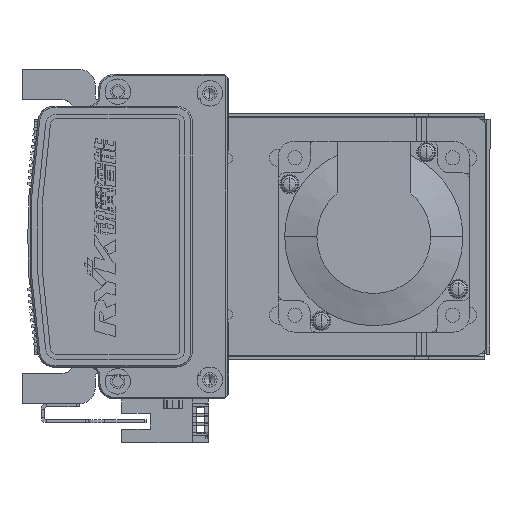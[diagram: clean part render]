
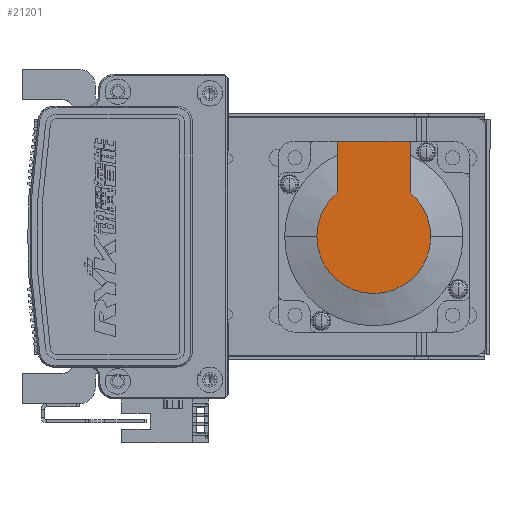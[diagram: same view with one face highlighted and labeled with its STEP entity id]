
A CAD part, left-side view. The second image highlights one B-rep face of the part: STEP entity #21201.
In plain terms, the highlighted planar face has unit normal (-1, 0, 0).
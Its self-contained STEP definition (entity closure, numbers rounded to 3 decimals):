
#6416 = ORIENTED_EDGE ( 'NONE', *, *, #21231, .F. ) ;
#6431 = ORIENTED_EDGE ( 'NONE', *, *, #21147, .T. ) ;
#6537 = ORIENTED_EDGE ( 'NONE', *, *, #21250, .F. ) ;
#6707 = ORIENTED_EDGE ( 'NONE', *, *, #20243, .T. ) ;
#6735 = ORIENTED_EDGE ( 'NONE', *, *, #20965, .T. ) ;
#6815 = ORIENTED_EDGE ( 'NONE', *, *, #20210, .T. ) ;
#15028 = VERTEX_POINT ( 'NONE', #52151 ) ;
#15046 = VERTEX_POINT ( 'NONE', #52183 ) ;
#15061 = VERTEX_POINT ( 'NONE', #52209 ) ;
#15369 = VERTEX_POINT ( 'NONE', #25208 ) ;
#15450 = VERTEX_POINT ( 'NONE', #25354 ) ;
#15661 = VERTEX_POINT ( 'NONE', #26994 ) ;
#20210 = EDGE_CURVE ( 'NONE', #15028, #15046, #63525, .T. ) ;
#20243 = EDGE_CURVE ( 'NONE', #15061, #15028, #63639, .T. ) ;
#20965 = EDGE_CURVE ( 'NONE', #15369, #15061, #64483, .T. ) ;
#21147 = EDGE_CURVE ( 'NONE', #15450, #15369, #37247, .T. ) ;
#21201 = ADVANCED_FACE ( 'NONE', ( #37310 ), #34901, .T. ) ;
#21231 = EDGE_CURVE ( 'NONE', #15450, #15661, #37333, .T. ) ;
#21250 = EDGE_CURVE ( 'NONE', #15661, #15046, #37340, .T. ) ;
#25208 = CARTESIAN_POINT ( 'NONE',  ( -99., 13.735, -11.45 ) ) ;
#25354 = CARTESIAN_POINT ( 'NONE',  ( -99., 30., -11.45 ) ) ;
#26994 = CARTESIAN_POINT ( 'NONE',  ( -99., 30., 11.45 ) ) ;
#33710 = EDGE_LOOP ( 'NONE', ( #6431, #6735, #6707, #6815, #6537, #6416 ) ) ;
#33945 = CARTESIAN_POINT ( 'NONE',  ( -99., 0., 0. ) ) ;
#33946 = DIRECTION ( 'NONE',  ( -1., 0., 0. ) ) ;
#33948 = DIRECTION ( 'NONE',  ( 0., 0., -1. ) ) ;
#34657 = CARTESIAN_POINT ( 'NONE',  ( -99., -8.941, -11.45 ) ) ;
#34691 = DIRECTION ( 'NONE',  ( 0., -1., 0. ) ) ;
#34901 = PLANE ( 'NONE',  #49519 ) ;
#34944 = DIRECTION ( 'NONE',  ( 0., 0., 1. ) ) ;
#34958 = CARTESIAN_POINT ( 'NONE',  ( -99., -8.941, 0. ) ) ;
#34992 = DIRECTION ( 'NONE',  ( -1., 0., 0. ) ) ;
#35116 = CARTESIAN_POINT ( 'NONE',  ( -99., 30., 25. ) ) ;
#35121 = DIRECTION ( 'NONE',  ( 0., -1., 0. ) ) ;
#35155 = DIRECTION ( 'NONE',  ( 0., 0., 1. ) ) ;
#35161 = CARTESIAN_POINT ( 'NONE',  ( -99., 0., 11.45 ) ) ;
#37209 = VECTOR ( 'NONE', #34691, 1000. ) ;
#37247 = LINE ( 'NONE', #34657, #37209 ) ;
#37310 = FACE_OUTER_BOUND ( 'NONE', #33710, .T. ) ;
#37333 = LINE ( 'NONE', #35116, #37350 ) ;
#37335 = VECTOR ( 'NONE', #35121, 1000. ) ;
#37340 = LINE ( 'NONE', #35161, #37335 ) ;
#37350 = VECTOR ( 'NONE', #35155, 1000. ) ;
#48936 = AXIS2_PLACEMENT_3D ( 'NONE', #61198, #61209, #61207 ) ;
#48975 = AXIS2_PLACEMENT_3D ( 'NONE', #61267, #61271, #61272 ) ;
#49213 = AXIS2_PLACEMENT_3D ( 'NONE', #33945, #33946, #33948 ) ;
#49519 = AXIS2_PLACEMENT_3D ( 'NONE', #34958, #34992, #34944 ) ;
#52151 = CARTESIAN_POINT ( 'NONE',  ( -99., 0., 17.881 ) ) ;
#52183 = CARTESIAN_POINT ( 'NONE',  ( -99., 13.735, 11.45 ) ) ;
#52209 = CARTESIAN_POINT ( 'NONE',  ( -99., 0., -17.881 ) ) ;
#61198 = CARTESIAN_POINT ( 'NONE',  ( -99., 0., 0. ) ) ;
#61207 = DIRECTION ( 'NONE',  ( 0., 0., -1. ) ) ;
#61209 = DIRECTION ( 'NONE',  ( -1., 0., 0. ) ) ;
#61267 = CARTESIAN_POINT ( 'NONE',  ( -99., 0., 0. ) ) ;
#61271 = DIRECTION ( 'NONE',  ( -1., 0., 0. ) ) ;
#61272 = DIRECTION ( 'NONE',  ( 0., 0., -1. ) ) ;
#63525 = CIRCLE ( 'NONE', #48936, 17.881 ) ;
#63639 = CIRCLE ( 'NONE', #48975, 17.881 ) ;
#64483 = CIRCLE ( 'NONE', #49213, 17.881 ) ;
